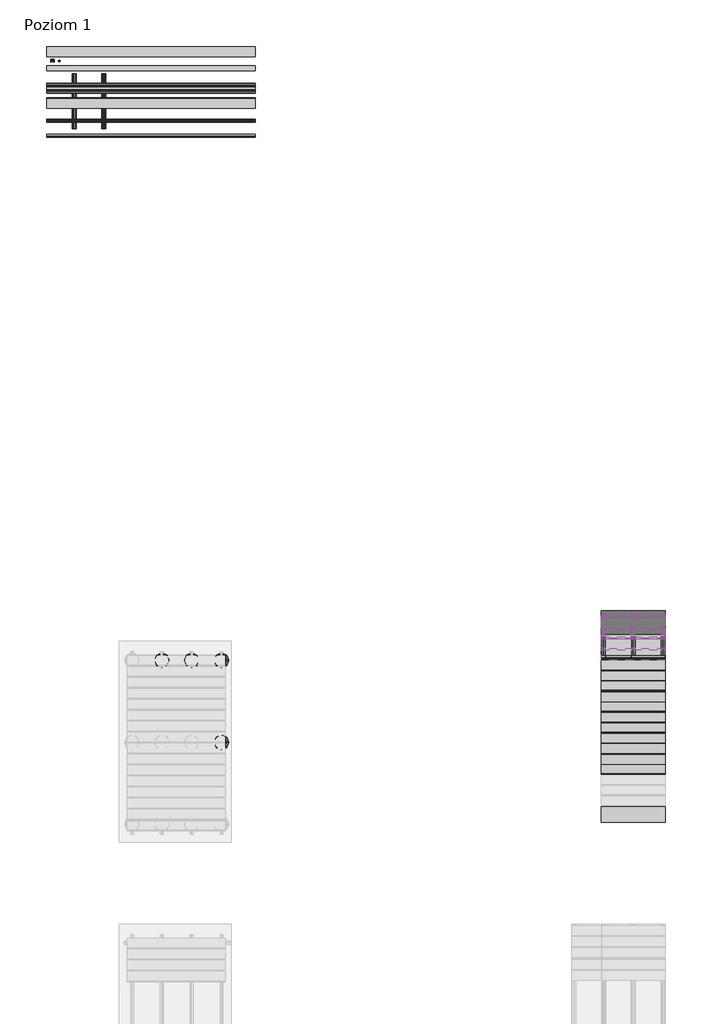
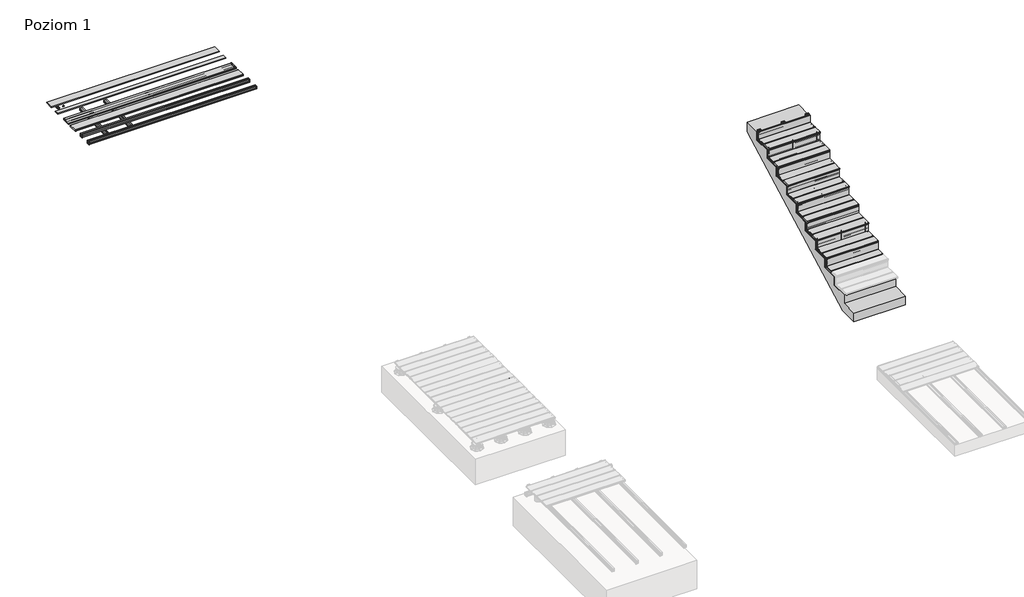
# One storey, part 3 of 3: 126 proxies.
"""IFC4 building model written with IfcOpenShell, lengths in millimetres."""

from ifc_helpers import new_model, si_unit, origin, place, context, project, spatial, transform, mapped, element, save
from components import generic_models_ff447b25, generic_models_61bc065f, generic_models_3772b401, generic_models_0a6fc9aa, generic_models_f2eebd4b, generic_models_5d387387, generic_models_da7c4b98, generic_models_ad5caf77, generic_models_7d2dd9e2, generic_models_15976a7a, deska_ld14022_75c34203, deska_ld14022_deska_ld14022_c7e6d53c, deska_ld14022_deska_ld14022_10748b43, deska_ld14022s_deska_ld14022s_a65ad6c5, deska_ld14022s_deska_ld14022s_40a74b43

model = new_model("IFC4")

# Units and contexts
model_context = context("Model", 3, world=origin())
ifc_project = project(units=[si_unit("LENGTHUNIT", "METRE", prefix="MILLI")], contexts=[model_context])

# Site, building, storey
site = spatial("IfcSite", under=ifc_project)
building = spatial("IfcBuilding", under=site)
storey = spatial("IfcBuildingStorey", under=building, Name="Poziom 1", Elevation=0.0)

# Proxies
placement = place(None, origin())
generic_models_shape = generic_models_ff447b25(model_context)
element("IfcBuildingElementProxy", 1, Name="Legar systemowy LD5030 : Legar systemowy LD5030", ObjectType="Legar systemowy LD5030 : Legar systemowy LD5030", at=placement, inside=storey, context=model_context, shape_type="MappedRepresentation", body=[
    mapped(generic_models_shape, transform((-964.1844126, 640.5405932, -30.0), x_axis=(0.0, 1.0, 0.0), y_axis=(-1.0, 0.0, 0.0), z_axis=(0.0, 0.0, 1.0))),
])
element("IfcBuildingElementProxy", 2, Name="Legar systemowy LD5030 : Legar systemowy LD5030", ObjectType="Legar systemowy LD5030 : Legar systemowy LD5030", at=placement, inside=storey, context=model_context, shape_type="MappedRepresentation", body=[
    mapped(generic_models_shape, transform((-564.1844126, 640.5405932, -30.0), x_axis=(0.0, 1.0, 0.0), y_axis=(-1.0, 0.0, 0.0), z_axis=(0.0, 0.0, 1.0))),
])
generic_models_2_shape = generic_models_61bc065f(model_context)
element("IfcBuildingElementProxy", 3, Name="Listwa LD7010 : Listwa LD7010", ObjectType="Listwa LD7010 : Listwa LD7010", at=placement, inside=storey, context=model_context, shape_type="MappedRepresentation", body=[
    mapped(generic_models_2_shape, transform((-1307.5800693, 1486.1988062, 0.0), x_axis=(1.0, 0.0, 0.0), y_axis=(0.0, 1.0, 0.0), z_axis=(0.0, 0.0, 1.0))),
])
generic_models_3_shape = generic_models_3772b401(model_context)
element("IfcBuildingElementProxy", 4, Name="Listwa LD14010 : Listwa LD14010", ObjectType="Listwa LD14010 : Listwa LD14010", at=placement, inside=storey, context=model_context, shape_type="MappedRepresentation", body=[
    mapped(generic_models_3_shape, transform((-1307.5800693, 1743.7909816, 0.0), x_axis=(1.0, 0.0, 0.0), y_axis=(0.0, 1.0, 0.0), z_axis=(0.0, 0.0, 1.0))),
])
generic_models_4_shape = generic_models_0a6fc9aa(model_context)
element("IfcBuildingElementProxy", 5, Name="Legar LD5039ALU : Legar LD5039ALU", ObjectType="Legar LD5039ALU : Legar LD5039ALU", at=placement, inside=storey, context=model_context, shape_type="MappedRepresentation", body=[
    mapped(generic_models_4_shape, transform((-1307.5800693, 565.2354164, 0.0), x_axis=(1.0, 0.0, 0.0), y_axis=(0.0, 1.0, 0.0), z_axis=(0.0, 0.0, 1.0))),
])
element("IfcBuildingElementProxy", 6, Name="Legar LD5039ALU : Legar LD5039ALU", ObjectType="Legar LD5039ALU : Legar LD5039ALU", at=placement, inside=storey, context=model_context, shape_type="MappedRepresentation", body=[
    mapped(generic_models_4_shape, transform((-1307.5800693, 767.6183154, 0.0), x_axis=(1.0, 0.0, 0.0), y_axis=(0.0, 1.0, 0.0), z_axis=(0.0, 0.0, 1.0))),
])
generic_models_5_shape = generic_models_f2eebd4b(model_context)
element("IfcBuildingElementProxy", 7, Name="Klips montażowy : Klips montażowy", ObjectType="Klips montażowy : Klips montażowy", at=placement, inside=storey, context=model_context, shape_type="MappedRepresentation", body=[
    mapped(generic_models_5_shape, transform((-1229.0924854, 1552.200837, 0.0), x_axis=(1.0, 0.0, 0.0), y_axis=(0.0, 1.0, 0.0), z_axis=(0.0, 0.0, 1.0))),
])
element("IfcBuildingElementProxy", 8, Name="Klips montażowy : Klips montażowy", ObjectType="Klips montażowy : Klips montażowy", at=placement, inside=storey, context=model_context, shape_type="MappedRepresentation", body=[
    mapped(generic_models_5_shape, transform((1040.3000551, -6569.0163547, -19.9602499), x_axis=(1.0, 0.0, 0.0), y_axis=(0.0, 1.0, 0.0), z_axis=(0.0, 0.0, 1.0))),
])
element("IfcBuildingElementProxy", 9, Name="Klips montażowy : Klips montażowy", ObjectType="Klips montażowy : Klips montażowy", at=placement, inside=storey, context=model_context, shape_type="MappedRepresentation", body=[
    mapped(generic_models_5_shape, transform((1040.3000551, -6716.8311952, -19.9602499), x_axis=(1.0, 0.0, 0.0), y_axis=(0.0, 1.0, 0.0), z_axis=(0.0, 0.0, 1.0))),
])
element("IfcBuildingElementProxy", 10, Name="Klips montażowy : Klips montażowy", ObjectType="Klips montażowy : Klips montażowy", at=placement, inside=storey, context=model_context, shape_type="MappedRepresentation", body=[
    mapped(generic_models_5_shape, transform((1040.3000551, -6864.6460356, -19.9602499), x_axis=(1.0, 0.0, 0.0), y_axis=(0.0, 1.0, 0.0), z_axis=(0.0, 0.0, 1.0))),
])
element("IfcBuildingElementProxy", 11, Name="Klips montażowy : Klips montażowy", ObjectType="Klips montażowy : Klips montażowy", at=placement, inside=storey, context=model_context, shape_type="MappedRepresentation", body=[
    mapped(generic_models_5_shape, transform((1040.3000551, -7012.460876, -19.9602499), x_axis=(1.0, 0.0, 0.0), y_axis=(0.0, 1.0, 0.0), z_axis=(0.0, 0.0, 1.0))),
])
element("IfcBuildingElementProxy", 12, Name="Klips montażowy : Klips montażowy", ObjectType="Klips montażowy : Klips montażowy", at=placement, inside=storey, context=model_context, shape_type="MappedRepresentation", body=[
    mapped(generic_models_5_shape, transform((1040.3000551, -7160.2757164, -19.9602499), x_axis=(1.0, 0.0, 0.0), y_axis=(0.0, 1.0, 0.0), z_axis=(0.0, 0.0, 1.0))),
])
element("IfcBuildingElementProxy", 13, Name="Klips montażowy : Klips montażowy", ObjectType="Klips montażowy : Klips montażowy", at=placement, inside=storey, context=model_context, shape_type="MappedRepresentation", body=[
    mapped(generic_models_5_shape, transform((1040.3000551, -7308.0905568, -19.9602499), x_axis=(1.0, 0.0, 0.0), y_axis=(0.0, 1.0, 0.0), z_axis=(0.0, 0.0, 1.0))),
])
element("IfcBuildingElementProxy", 14, Name="Klips montażowy : Klips montażowy", ObjectType="Klips montażowy : Klips montażowy", at=placement, inside=storey, context=model_context, shape_type="MappedRepresentation", body=[
    mapped(generic_models_5_shape, transform((1040.3000551, -7455.9053972, -19.9602499), x_axis=(1.0, 0.0, 0.0), y_axis=(0.0, 1.0, 0.0), z_axis=(0.0, 0.0, 1.0))),
])
element("IfcBuildingElementProxy", 15, Name="Klips montażowy : Klips montażowy", ObjectType="Klips montażowy : Klips montażowy", at=placement, inside=storey, context=model_context, shape_type="MappedRepresentation", body=[
    mapped(generic_models_5_shape, transform((1040.3000551, -7603.7202376, -19.9602499), x_axis=(1.0, 0.0, 0.0), y_axis=(0.0, 1.0, 0.0), z_axis=(0.0, 0.0, 1.0))),
])
element("IfcBuildingElementProxy", 16, Name="Klips montażowy : Klips montażowy", ObjectType="Klips montażowy : Klips montażowy", at=placement, inside=storey, context=model_context, shape_type="MappedRepresentation", body=[
    mapped(generic_models_5_shape, transform((1040.3000551, -7751.535078, -19.9602499), x_axis=(1.0, 0.0, 0.0), y_axis=(0.0, 1.0, 0.0), z_axis=(0.0, 0.0, 1.0))),
])
element("IfcBuildingElementProxy", 17, Name="Klips montażowy : Klips montażowy", ObjectType="Klips montażowy : Klips montażowy", at=placement, inside=storey, context=model_context, shape_type="MappedRepresentation", body=[
    mapped(generic_models_5_shape, transform((1040.3000551, -7899.3499184, -19.9602499), x_axis=(1.0, 0.0, 0.0), y_axis=(0.0, 1.0, 0.0), z_axis=(0.0, 0.0, 1.0))),
])
element("IfcBuildingElementProxy", 18, Name="Klips montażowy : Klips montażowy", ObjectType="Klips montażowy : Klips montażowy", at=placement, inside=storey, context=model_context, shape_type="MappedRepresentation", body=[
    mapped(generic_models_5_shape, transform((640.3000551, -6569.0163547, -19.9602499), x_axis=(1.0, 0.0, 0.0), y_axis=(0.0, 1.0, 0.0), z_axis=(0.0, 0.0, 1.0))),
])
element("IfcBuildingElementProxy", 19, Name="Klips montażowy : Klips montażowy", ObjectType="Klips montażowy : Klips montażowy", at=placement, inside=storey, context=model_context, shape_type="MappedRepresentation", body=[
    mapped(generic_models_5_shape, transform((640.3000551, -6716.8311952, -19.9602499), x_axis=(1.0, 0.0, 0.0), y_axis=(0.0, 1.0, 0.0), z_axis=(0.0, 0.0, 1.0))),
])
element("IfcBuildingElementProxy", 20, Name="Klips montażowy : Klips montażowy", ObjectType="Klips montażowy : Klips montażowy", at=placement, inside=storey, context=model_context, shape_type="MappedRepresentation", body=[
    mapped(generic_models_5_shape, transform((640.3000551, -6864.6460356, -19.9602499), x_axis=(1.0, 0.0, 0.0), y_axis=(0.0, 1.0, 0.0), z_axis=(0.0, 0.0, 1.0))),
])
element("IfcBuildingElementProxy", 21, Name="Klips montażowy : Klips montażowy", ObjectType="Klips montażowy : Klips montażowy", at=placement, inside=storey, context=model_context, shape_type="MappedRepresentation", body=[
    mapped(generic_models_5_shape, transform((240.2735017, -6569.0163547, -19.9602499), x_axis=(1.0, 0.0, 0.0), y_axis=(0.0, 1.0, 0.0), z_axis=(0.0, 0.0, 1.0))),
])
element("IfcBuildingElementProxy", 22, Name="Klips montażowy : Klips montażowy", ObjectType="Klips montażowy : Klips montażowy", at=placement, inside=storey, context=model_context, shape_type="MappedRepresentation", body=[
    mapped(generic_models_5_shape, transform((240.2735017, -6716.8311952, -19.9602499), x_axis=(1.0, 0.0, 0.0), y_axis=(0.0, 1.0, 0.0), z_axis=(0.0, 0.0, 1.0))),
])
element("IfcBuildingElementProxy", 23, Name="Klips montażowy : Klips montażowy", ObjectType="Klips montażowy : Klips montażowy", at=placement, inside=storey, context=model_context, shape_type="MappedRepresentation", body=[
    mapped(generic_models_5_shape, transform((240.2735017, -6864.6460356, -19.9602499), x_axis=(1.0, 0.0, 0.0), y_axis=(0.0, 1.0, 0.0), z_axis=(0.0, 0.0, 1.0))),
])
element("IfcBuildingElementProxy", 24, Name="Klips montażowy : Klips montażowy", ObjectType="Klips montażowy : Klips montażowy", at=placement, inside=storey, context=model_context, shape_type="MappedRepresentation", body=[
    mapped(generic_models_5_shape, transform((240.2735017, -7160.2757164, -19.9602499), x_axis=(1.0, 0.0, 0.0), y_axis=(0.0, 1.0, 0.0), z_axis=(0.0, 0.0, 1.0))),
])
element("IfcBuildingElementProxy", 25, Name="Klips montażowy : Klips montażowy", ObjectType="Klips montażowy : Klips montażowy", at=placement, inside=storey, context=model_context, shape_type="MappedRepresentation", body=[
    mapped(generic_models_5_shape, transform((240.2735017, -7308.0905568, -19.9602499), x_axis=(1.0, 0.0, 0.0), y_axis=(0.0, 1.0, 0.0), z_axis=(0.0, 0.0, 1.0))),
])
element("IfcBuildingElementProxy", 26, Name="Klips montażowy : Klips montażowy", ObjectType="Klips montażowy : Klips montażowy", at=placement, inside=storey, context=model_context, shape_type="MappedRepresentation", body=[
    mapped(generic_models_5_shape, transform((240.2735017, -7455.9053972, -19.9602499), x_axis=(1.0, 0.0, 0.0), y_axis=(0.0, 1.0, 0.0), z_axis=(0.0, 0.0, 1.0))),
])
element("IfcBuildingElementProxy", 27, Name="Klips montażowy : Klips montażowy", ObjectType="Klips montażowy : Klips montażowy", at=placement, inside=storey, context=model_context, shape_type="MappedRepresentation", body=[
    mapped(generic_models_5_shape, transform((240.2735017, -7603.7202376, -19.9602499), x_axis=(1.0, 0.0, 0.0), y_axis=(0.0, 1.0, 0.0), z_axis=(0.0, 0.0, 1.0))),
])
element("IfcBuildingElementProxy", 28, Name="Klips montażowy : Klips montażowy", ObjectType="Klips montażowy : Klips montażowy", at=placement, inside=storey, context=model_context, shape_type="MappedRepresentation", body=[
    mapped(generic_models_5_shape, transform((240.2735017, -7751.535078, -19.9602499), x_axis=(1.0, 0.0, 0.0), y_axis=(0.0, 1.0, 0.0), z_axis=(0.0, 0.0, 1.0))),
])
element("IfcBuildingElementProxy", 29, Name="Klips montażowy : Klips montażowy", ObjectType="Klips montażowy : Klips montażowy", at=placement, inside=storey, context=model_context, shape_type="MappedRepresentation", body=[
    mapped(generic_models_5_shape, transform((240.2735017, -7899.3499184, -19.9602499), x_axis=(1.0, 0.0, 0.0), y_axis=(0.0, 1.0, 0.0), z_axis=(0.0, 0.0, 1.0))),
])
element("IfcBuildingElementProxy", 30, Name="Klips montażowy : Klips montażowy", ObjectType="Klips montażowy : Klips montażowy", at=placement, inside=storey, context=model_context, shape_type="MappedRepresentation", body=[
    mapped(generic_models_5_shape, transform((6968.9741398, -6066.9888182, 1380.0), x_axis=(1.0, 0.0, 0.0), y_axis=(0.0, 1.0, 0.0), z_axis=(0.0, 0.0, 1.0))),
])
element("IfcBuildingElementProxy", 31, Name="Klips montażowy : Klips montażowy", ObjectType="Klips montażowy : Klips montażowy", at=placement, inside=storey, context=model_context, shape_type="MappedRepresentation", body=[
    mapped(generic_models_5_shape, transform((6968.9741398, -6346.9888182, 1230.0), x_axis=(1.0, 0.0, 0.0), y_axis=(0.0, 1.0, 0.0), z_axis=(0.0, 0.0, 1.0))),
])
element("IfcBuildingElementProxy", 32, Name="Klips montażowy : Klips montażowy", ObjectType="Klips montażowy : Klips montażowy", at=placement, inside=storey, context=model_context, shape_type="MappedRepresentation", body=[
    mapped(generic_models_5_shape, transform((6968.9741398, -6626.9888182, 1080.0), x_axis=(1.0, 0.0, 0.0), y_axis=(0.0, 1.0, 0.0), z_axis=(0.0, 0.0, 1.0))),
])
element("IfcBuildingElementProxy", 33, Name="Klips montażowy : Klips montażowy", ObjectType="Klips montażowy : Klips montażowy", at=placement, inside=storey, context=model_context, shape_type="MappedRepresentation", body=[
    mapped(generic_models_5_shape, transform((6968.9741398, -6906.9888182, 930.0), x_axis=(1.0, 0.0, 0.0), y_axis=(0.0, 1.0, 0.0), z_axis=(0.0, 0.0, 1.0))),
])
element("IfcBuildingElementProxy", 34, Name="Klips montażowy : Klips montażowy", ObjectType="Klips montażowy : Klips montażowy", at=placement, inside=storey, context=model_context, shape_type="MappedRepresentation", body=[
    mapped(generic_models_5_shape, transform((6968.9741398, -7186.9888182, 780.0), x_axis=(1.0, 0.0, 0.0), y_axis=(0.0, 1.0, 0.0), z_axis=(0.0, 0.0, 1.0))),
])
element("IfcBuildingElementProxy", 35, Name="Klips montażowy : Klips montażowy", ObjectType="Klips montażowy : Klips montażowy", at=placement, inside=storey, context=model_context, shape_type="MappedRepresentation", body=[
    mapped(generic_models_5_shape, transform((6968.9741398, -7466.9888182, 630.0), x_axis=(1.0, 0.0, 0.0), y_axis=(0.0, 1.0, 0.0), z_axis=(0.0, 0.0, 1.0))),
])
element("IfcBuildingElementProxy", 36, Name="Klips montażowy : Klips montażowy", ObjectType="Klips montażowy : Klips montażowy", at=placement, inside=storey, context=model_context, shape_type="MappedRepresentation", body=[
    mapped(generic_models_5_shape, transform((6968.9741398, -7746.9888182, 480.0), x_axis=(1.0, 0.0, 0.0), y_axis=(0.0, 1.0, 0.0), z_axis=(0.0, 0.0, 1.0))),
])
element("IfcBuildingElementProxy", 37, Name="Klips montażowy : Klips montażowy", ObjectType="Klips montażowy : Klips montażowy", at=placement, inside=storey, context=model_context, shape_type="MappedRepresentation", body=[
    mapped(generic_models_5_shape, transform((6568.9741398, -6066.9888182, 1380.0), x_axis=(1.0, 0.0, 0.0), y_axis=(0.0, 1.0, 0.0), z_axis=(0.0, 0.0, 1.0))),
])
element("IfcBuildingElementProxy", 38, Name="Klips montażowy : Klips montażowy", ObjectType="Klips montażowy : Klips montażowy", at=placement, inside=storey, context=model_context, shape_type="MappedRepresentation", body=[
    mapped(generic_models_5_shape, transform((6568.9741398, -6346.9888182, 1230.0), x_axis=(1.0, 0.0, 0.0), y_axis=(0.0, 1.0, 0.0), z_axis=(0.0, 0.0, 1.0))),
])
element("IfcBuildingElementProxy", 39, Name="Klips montażowy : Klips montażowy", ObjectType="Klips montażowy : Klips montażowy", at=placement, inside=storey, context=model_context, shape_type="MappedRepresentation", body=[
    mapped(generic_models_5_shape, transform((6568.9741398, -6626.9888182, 1080.0), x_axis=(1.0, 0.0, 0.0), y_axis=(0.0, 1.0, 0.0), z_axis=(0.0, 0.0, 1.0))),
])
element("IfcBuildingElementProxy", 40, Name="Klips montażowy : Klips montażowy", ObjectType="Klips montażowy : Klips montażowy", at=placement, inside=storey, context=model_context, shape_type="MappedRepresentation", body=[
    mapped(generic_models_5_shape, transform((6568.9741398, -6906.9888182, 930.0), x_axis=(1.0, 0.0, 0.0), y_axis=(0.0, 1.0, 0.0), z_axis=(0.0, 0.0, 1.0))),
])
element("IfcBuildingElementProxy", 41, Name="Klips montażowy : Klips montażowy", ObjectType="Klips montażowy : Klips montażowy", at=placement, inside=storey, context=model_context, shape_type="MappedRepresentation", body=[
    mapped(generic_models_5_shape, transform((6568.9741398, -7186.9888182, 780.0), x_axis=(1.0, 0.0, 0.0), y_axis=(0.0, 1.0, 0.0), z_axis=(0.0, 0.0, 1.0))),
])
element("IfcBuildingElementProxy", 42, Name="Klips montażowy : Klips montażowy", ObjectType="Klips montażowy : Klips montażowy", at=placement, inside=storey, context=model_context, shape_type="MappedRepresentation", body=[
    mapped(generic_models_5_shape, transform((6568.9741398, -7466.9888182, 630.0), x_axis=(1.0, 0.0, 0.0), y_axis=(0.0, 1.0, 0.0), z_axis=(0.0, 0.0, 1.0))),
])
element("IfcBuildingElementProxy", 43, Name="Klips montażowy : Klips montażowy", ObjectType="Klips montażowy : Klips montażowy", at=placement, inside=storey, context=model_context, shape_type="MappedRepresentation", body=[
    mapped(generic_models_5_shape, transform((6568.9741398, -7746.9888182, 480.0), x_axis=(1.0, 0.0, 0.0), y_axis=(0.0, 1.0, 0.0), z_axis=(0.0, 0.0, 1.0))),
])
element("IfcBuildingElementProxy", 44, Name="Klips montażowy : Klips montażowy", ObjectType="Klips montażowy : Klips montażowy", at=placement, inside=storey, context=model_context, shape_type="MappedRepresentation", body=[
    mapped(generic_models_5_shape, transform((6168.9741398, -6066.9888182, 1380.0), x_axis=(1.0, 0.0, 0.0), y_axis=(0.0, 1.0, 0.0), z_axis=(0.0, 0.0, 1.0))),
])
element("IfcBuildingElementProxy", 45, Name="Klips montażowy : Klips montażowy", ObjectType="Klips montażowy : Klips montażowy", at=placement, inside=storey, context=model_context, shape_type="MappedRepresentation", body=[
    mapped(generic_models_5_shape, transform((6168.9741398, -6346.9888182, 1230.0), x_axis=(1.0, 0.0, 0.0), y_axis=(0.0, 1.0, 0.0), z_axis=(0.0, 0.0, 1.0))),
])
element("IfcBuildingElementProxy", 46, Name="Klips montażowy : Klips montażowy", ObjectType="Klips montażowy : Klips montażowy", at=placement, inside=storey, context=model_context, shape_type="MappedRepresentation", body=[
    mapped(generic_models_5_shape, transform((6168.9741398, -6626.9888182, 1080.0), x_axis=(1.0, 0.0, 0.0), y_axis=(0.0, 1.0, 0.0), z_axis=(0.0, 0.0, 1.0))),
])
element("IfcBuildingElementProxy", 47, Name="Klips montażowy : Klips montażowy", ObjectType="Klips montażowy : Klips montażowy", at=placement, inside=storey, context=model_context, shape_type="MappedRepresentation", body=[
    mapped(generic_models_5_shape, transform((6168.9741398, -6906.9888182, 930.0), x_axis=(1.0, 0.0, 0.0), y_axis=(0.0, 1.0, 0.0), z_axis=(0.0, 0.0, 1.0))),
])
element("IfcBuildingElementProxy", 48, Name="Klips montażowy : Klips montażowy", ObjectType="Klips montażowy : Klips montażowy", at=placement, inside=storey, context=model_context, shape_type="MappedRepresentation", body=[
    mapped(generic_models_5_shape, transform((6168.9741398, -7186.9888182, 780.0), x_axis=(1.0, 0.0, 0.0), y_axis=(0.0, 1.0, 0.0), z_axis=(0.0, 0.0, 1.0))),
])
element("IfcBuildingElementProxy", 49, Name="Klips montażowy : Klips montażowy", ObjectType="Klips montażowy : Klips montażowy", at=placement, inside=storey, context=model_context, shape_type="MappedRepresentation", body=[
    mapped(generic_models_5_shape, transform((6168.9741398, -7466.9888182, 630.0), x_axis=(1.0, 0.0, 0.0), y_axis=(0.0, 1.0, 0.0), z_axis=(0.0, 0.0, 1.0))),
])
element("IfcBuildingElementProxy", 50, Name="Klips montażowy : Klips montażowy", ObjectType="Klips montażowy : Klips montażowy", at=placement, inside=storey, context=model_context, shape_type="MappedRepresentation", body=[
    mapped(generic_models_5_shape, transform((6168.9741398, -7746.9888182, 480.0), x_axis=(1.0, 0.0, 0.0), y_axis=(0.0, 1.0, 0.0), z_axis=(0.0, 0.0, 1.0))),
])
generic_models_6_shape = generic_models_5d387387(model_context)
element("IfcBuildingElementProxy", 51, Name="Klips blokujący : Klips blokujący", ObjectType="Klips blokujący : Klips blokujący", at=placement, inside=storey, context=model_context, shape_type="MappedRepresentation", body=[
    mapped(generic_models_6_shape, transform((-1145.881616, 1548.447155, 0.0), x_axis=(1.0, 0.0, 0.0), y_axis=(0.0, 1.0, 0.0), z_axis=(0.0, 0.0, 1.0))),
])
generic_models_7_shape = generic_models_da7c4b98(model_context)
element("IfcBuildingElementProxy", 52, Name="Modele ogólne 1 : Modele ogólne 1", ObjectType="Modele ogólne 1 : Modele ogólne 1", at=placement, inside=storey, context=model_context, shape_type="MappedRepresentation", body=[
    mapped(generic_models_7_shape, transform((0.0, 0.0, 0.0), x_axis=(1.0, 0.0, 0.0), y_axis=(0.0, 1.0, 0.0), z_axis=(0.0, 0.0, 1.0))),
])
generic_models_8_shape = generic_models_ad5caf77(model_context)
element("IfcBuildingElementProxy", 53, Name="Legar systemowy LD5030 : Legar systemowy LD5030", ObjectType="Legar systemowy LD5030 : Legar systemowy LD5030", at=placement, inside=storey, context=model_context, shape_type="MappedRepresentation", body=[
    mapped(generic_models_8_shape, transform((6541.7939993, -6149.2028197, 1350.0), x_axis=(0.0, 1.0, 0.0), y_axis=(-1.0, 0.0, 0.0), z_axis=(0.0, 0.0, 1.0))),
])
element("IfcBuildingElementProxy", 54, Name="Legar systemowy LD5030 : Legar systemowy LD5030", ObjectType="Legar systemowy LD5030 : Legar systemowy LD5030", at=placement, inside=storey, context=model_context, shape_type="MappedRepresentation", body=[
    mapped(generic_models_8_shape, transform((6541.7939993, -6429.2028197, 1200.0), x_axis=(0.0, 1.0, 0.0), y_axis=(-1.0, 0.0, 0.0), z_axis=(0.0, 0.0, 1.0))),
])
element("IfcBuildingElementProxy", 55, Name="Legar systemowy LD5030 : Legar systemowy LD5030", ObjectType="Legar systemowy LD5030 : Legar systemowy LD5030", at=placement, inside=storey, context=model_context, shape_type="MappedRepresentation", body=[
    mapped(generic_models_8_shape, transform((6541.7939993, -6709.2028197, 1050.0), x_axis=(0.0, 1.0, 0.0), y_axis=(-1.0, 0.0, 0.0), z_axis=(0.0, 0.0, 1.0))),
])
element("IfcBuildingElementProxy", 56, Name="Legar systemowy LD5030 : Legar systemowy LD5030", ObjectType="Legar systemowy LD5030 : Legar systemowy LD5030", at=placement, inside=storey, context=model_context, shape_type="MappedRepresentation", body=[
    mapped(generic_models_8_shape, transform((6541.7939993, -6989.2028197, 900.0), x_axis=(0.0, 1.0, 0.0), y_axis=(-1.0, 0.0, 0.0), z_axis=(0.0, 0.0, 1.0))),
])
element("IfcBuildingElementProxy", 57, Name="Legar systemowy LD5030 : Legar systemowy LD5030", ObjectType="Legar systemowy LD5030 : Legar systemowy LD5030", at=placement, inside=storey, context=model_context, shape_type="MappedRepresentation", body=[
    mapped(generic_models_8_shape, transform((6541.7939993, -7269.2028197, 750.0), x_axis=(0.0, 1.0, 0.0), y_axis=(-1.0, 0.0, 0.0), z_axis=(0.0, 0.0, 1.0))),
])
element("IfcBuildingElementProxy", 58, Name="Legar systemowy LD5030 : Legar systemowy LD5030", ObjectType="Legar systemowy LD5030 : Legar systemowy LD5030", at=placement, inside=storey, context=model_context, shape_type="MappedRepresentation", body=[
    mapped(generic_models_8_shape, transform((6541.7939993, -7549.2028197, 600.0), x_axis=(0.0, 1.0, 0.0), y_axis=(-1.0, 0.0, 0.0), z_axis=(0.0, 0.0, 1.0))),
])
element("IfcBuildingElementProxy", 59, Name="Legar systemowy LD5030 : Legar systemowy LD5030", ObjectType="Legar systemowy LD5030 : Legar systemowy LD5030", at=placement, inside=storey, context=model_context, shape_type="MappedRepresentation", body=[
    mapped(generic_models_8_shape, transform((6541.7939993, -7829.2028197, 450.0), x_axis=(0.0, 1.0, 0.0), y_axis=(-1.0, 0.0, 0.0), z_axis=(0.0, 0.0, 1.0))),
])
element("IfcBuildingElementProxy", 60, Name="Legar systemowy LD5030 : Legar systemowy LD5030", ObjectType="Legar systemowy LD5030 : Legar systemowy LD5030", at=placement, inside=storey, context=model_context, shape_type="MappedRepresentation", body=[
    mapped(generic_models_8_shape, transform((6941.7939993, -6149.2028197, 1350.0), x_axis=(0.0, 1.0, 0.0), y_axis=(-1.0, 0.0, 0.0), z_axis=(0.0, 0.0, 1.0))),
])
element("IfcBuildingElementProxy", 61, Name="Legar systemowy LD5030 : Legar systemowy LD5030", ObjectType="Legar systemowy LD5030 : Legar systemowy LD5030", at=placement, inside=storey, context=model_context, shape_type="MappedRepresentation", body=[
    mapped(generic_models_8_shape, transform((6941.7939993, -6429.2028197, 1200.0), x_axis=(0.0, 1.0, 0.0), y_axis=(-1.0, 0.0, 0.0), z_axis=(0.0, 0.0, 1.0))),
])
element("IfcBuildingElementProxy", 62, Name="Legar systemowy LD5030 : Legar systemowy LD5030", ObjectType="Legar systemowy LD5030 : Legar systemowy LD5030", at=placement, inside=storey, context=model_context, shape_type="MappedRepresentation", body=[
    mapped(generic_models_8_shape, transform((6941.7939993, -6709.2028197, 1050.0), x_axis=(0.0, 1.0, 0.0), y_axis=(-1.0, 0.0, 0.0), z_axis=(0.0, 0.0, 1.0))),
])
element("IfcBuildingElementProxy", 63, Name="Legar systemowy LD5030 : Legar systemowy LD5030", ObjectType="Legar systemowy LD5030 : Legar systemowy LD5030", at=placement, inside=storey, context=model_context, shape_type="MappedRepresentation", body=[
    mapped(generic_models_8_shape, transform((6941.7939993, -6989.2028197, 900.0), x_axis=(0.0, 1.0, 0.0), y_axis=(-1.0, 0.0, 0.0), z_axis=(0.0, 0.0, 1.0))),
])
element("IfcBuildingElementProxy", 64, Name="Legar systemowy LD5030 : Legar systemowy LD5030", ObjectType="Legar systemowy LD5030 : Legar systemowy LD5030", at=placement, inside=storey, context=model_context, shape_type="MappedRepresentation", body=[
    mapped(generic_models_8_shape, transform((6941.7939993, -7269.2028197, 750.0), x_axis=(0.0, 1.0, 0.0), y_axis=(-1.0, 0.0, 0.0), z_axis=(0.0, 0.0, 1.0))),
])
element("IfcBuildingElementProxy", 65, Name="Legar systemowy LD5030 : Legar systemowy LD5030", ObjectType="Legar systemowy LD5030 : Legar systemowy LD5030", at=placement, inside=storey, context=model_context, shape_type="MappedRepresentation", body=[
    mapped(generic_models_8_shape, transform((6941.7939993, -7549.2028197, 600.0), x_axis=(0.0, 1.0, 0.0), y_axis=(-1.0, 0.0, 0.0), z_axis=(0.0, 0.0, 1.0))),
])
element("IfcBuildingElementProxy", 66, Name="Legar systemowy LD5030 : Legar systemowy LD5030", ObjectType="Legar systemowy LD5030 : Legar systemowy LD5030", at=placement, inside=storey, context=model_context, shape_type="MappedRepresentation", body=[
    mapped(generic_models_8_shape, transform((6941.7939993, -7829.2028197, 450.0), x_axis=(0.0, 1.0, 0.0), y_axis=(-1.0, 0.0, 0.0), z_axis=(0.0, 0.0, 1.0))),
])
element("IfcBuildingElementProxy", 67, Name="Legar systemowy LD5030 : Legar systemowy LD5030", ObjectType="Legar systemowy LD5030 : Legar systemowy LD5030", at=placement, inside=storey, context=model_context, shape_type="MappedRepresentation", body=[
    mapped(generic_models_8_shape, transform((6141.7939993, -6149.2028197, 1350.0), x_axis=(0.0, 1.0, 0.0), y_axis=(-1.0, 0.0, 0.0), z_axis=(0.0, 0.0, 1.0))),
])
element("IfcBuildingElementProxy", 68, Name="Legar systemowy LD5030 : Legar systemowy LD5030", ObjectType="Legar systemowy LD5030 : Legar systemowy LD5030", at=placement, inside=storey, context=model_context, shape_type="MappedRepresentation", body=[
    mapped(generic_models_8_shape, transform((6141.7939993, -6429.2028197, 1200.0), x_axis=(0.0, 1.0, 0.0), y_axis=(-1.0, 0.0, 0.0), z_axis=(0.0, 0.0, 1.0))),
])
element("IfcBuildingElementProxy", 69, Name="Legar systemowy LD5030 : Legar systemowy LD5030", ObjectType="Legar systemowy LD5030 : Legar systemowy LD5030", at=placement, inside=storey, context=model_context, shape_type="MappedRepresentation", body=[
    mapped(generic_models_8_shape, transform((6141.7939993, -6709.2028197, 1050.0), x_axis=(0.0, 1.0, 0.0), y_axis=(-1.0, 0.0, 0.0), z_axis=(0.0, 0.0, 1.0))),
])
element("IfcBuildingElementProxy", 70, Name="Legar systemowy LD5030 : Legar systemowy LD5030", ObjectType="Legar systemowy LD5030 : Legar systemowy LD5030", at=placement, inside=storey, context=model_context, shape_type="MappedRepresentation", body=[
    mapped(generic_models_8_shape, transform((6141.7939993, -6989.2028197, 900.0), x_axis=(0.0, 1.0, 0.0), y_axis=(-1.0, 0.0, 0.0), z_axis=(0.0, 0.0, 1.0))),
])
element("IfcBuildingElementProxy", 71, Name="Legar systemowy LD5030 : Legar systemowy LD5030", ObjectType="Legar systemowy LD5030 : Legar systemowy LD5030", at=placement, inside=storey, context=model_context, shape_type="MappedRepresentation", body=[
    mapped(generic_models_8_shape, transform((6141.7939993, -7269.2028197, 750.0), x_axis=(0.0, 1.0, 0.0), y_axis=(-1.0, 0.0, 0.0), z_axis=(0.0, 0.0, 1.0))),
])
element("IfcBuildingElementProxy", 72, Name="Legar systemowy LD5030 : Legar systemowy LD5030", ObjectType="Legar systemowy LD5030 : Legar systemowy LD5030", at=placement, inside=storey, context=model_context, shape_type="MappedRepresentation", body=[
    mapped(generic_models_8_shape, transform((6141.7939993, -7549.2028197, 600.0), x_axis=(0.0, 1.0, 0.0), y_axis=(-1.0, 0.0, 0.0), z_axis=(0.0, 0.0, 1.0))),
])
element("IfcBuildingElementProxy", 73, Name="Legar systemowy LD5030 : Legar systemowy LD5030", ObjectType="Legar systemowy LD5030 : Legar systemowy LD5030", at=placement, inside=storey, context=model_context, shape_type="MappedRepresentation", body=[
    mapped(generic_models_8_shape, transform((6141.7939993, -7829.2028197, 450.0), x_axis=(0.0, 1.0, 0.0), y_axis=(-1.0, 0.0, 0.0), z_axis=(0.0, 0.0, 1.0))),
])
generic_models_9_shape = generic_models_7d2dd9e2(model_context)
element("IfcBuildingElementProxy", 74, Name="Legar systemowy LD5030_pion : Legar systemowy LD5030_pion", ObjectType="Legar systemowy LD5030_pion : Legar systemowy LD5030_pion", at=placement, inside=storey, context=model_context, shape_type="MappedRepresentation", body=[
    mapped(generic_models_9_shape, transform((6541.7939993, -5869.2028197, 1350.0), x_axis=(0.0, 1.0, 0.0), y_axis=(-1.0, 0.0, 0.0), z_axis=(0.0, 0.0, 1.0))),
])
element("IfcBuildingElementProxy", 75, Name="Legar systemowy LD5030_pion : Legar systemowy LD5030_pion", ObjectType="Legar systemowy LD5030_pion : Legar systemowy LD5030_pion", at=placement, inside=storey, context=model_context, shape_type="MappedRepresentation", body=[
    mapped(generic_models_9_shape, transform((6541.7939993, -6149.2028197, 1200.0), x_axis=(0.0, 1.0, 0.0), y_axis=(-1.0, 0.0, 0.0), z_axis=(0.0, 0.0, 1.0))),
])
element("IfcBuildingElementProxy", 76, Name="Legar systemowy LD5030_pion : Legar systemowy LD5030_pion", ObjectType="Legar systemowy LD5030_pion : Legar systemowy LD5030_pion", at=placement, inside=storey, context=model_context, shape_type="MappedRepresentation", body=[
    mapped(generic_models_9_shape, transform((6541.7939993, -6429.2028197, 1050.0), x_axis=(0.0, 1.0, 0.0), y_axis=(-1.0, 0.0, 0.0), z_axis=(0.0, 0.0, 1.0))),
])
element("IfcBuildingElementProxy", 77, Name="Legar systemowy LD5030_pion : Legar systemowy LD5030_pion", ObjectType="Legar systemowy LD5030_pion : Legar systemowy LD5030_pion", at=placement, inside=storey, context=model_context, shape_type="MappedRepresentation", body=[
    mapped(generic_models_9_shape, transform((6541.7939993, -6709.2028197, 900.0), x_axis=(0.0, 1.0, 0.0), y_axis=(-1.0, 0.0, 0.0), z_axis=(0.0, 0.0, 1.0))),
])
element("IfcBuildingElementProxy", 78, Name="Legar systemowy LD5030_pion : Legar systemowy LD5030_pion", ObjectType="Legar systemowy LD5030_pion : Legar systemowy LD5030_pion", at=placement, inside=storey, context=model_context, shape_type="MappedRepresentation", body=[
    mapped(generic_models_9_shape, transform((6541.7939993, -6989.2028197, 750.0), x_axis=(0.0, 1.0, 0.0), y_axis=(-1.0, 0.0, 0.0), z_axis=(0.0, 0.0, 1.0))),
])
element("IfcBuildingElementProxy", 79, Name="Legar systemowy LD5030_pion : Legar systemowy LD5030_pion", ObjectType="Legar systemowy LD5030_pion : Legar systemowy LD5030_pion", at=placement, inside=storey, context=model_context, shape_type="MappedRepresentation", body=[
    mapped(generic_models_9_shape, transform((6541.7939993, -7269.2028197, 600.0), x_axis=(0.0, 1.0, 0.0), y_axis=(-1.0, 0.0, 0.0), z_axis=(0.0, 0.0, 1.0))),
])
element("IfcBuildingElementProxy", 80, Name="Legar systemowy LD5030_pion : Legar systemowy LD5030_pion", ObjectType="Legar systemowy LD5030_pion : Legar systemowy LD5030_pion", at=placement, inside=storey, context=model_context, shape_type="MappedRepresentation", body=[
    mapped(generic_models_9_shape, transform((6541.7939993, -7549.2028197, 450.0), x_axis=(0.0, 1.0, 0.0), y_axis=(-1.0, 0.0, 0.0), z_axis=(0.0, 0.0, 1.0))),
])
element("IfcBuildingElementProxy", 81, Name="Legar systemowy LD5030_pion : Legar systemowy LD5030_pion", ObjectType="Legar systemowy LD5030_pion : Legar systemowy LD5030_pion", at=placement, inside=storey, context=model_context, shape_type="MappedRepresentation", body=[
    mapped(generic_models_9_shape, transform((6541.7939993, -7829.2028197, 300.0), x_axis=(0.0, 1.0, 0.0), y_axis=(-1.0, 0.0, 0.0), z_axis=(0.0, 0.0, 1.0))),
])
element("IfcBuildingElementProxy", 82, Name="Legar systemowy LD5030_pion : Legar systemowy LD5030_pion", ObjectType="Legar systemowy LD5030_pion : Legar systemowy LD5030_pion", at=placement, inside=storey, context=model_context, shape_type="MappedRepresentation", body=[
    mapped(generic_models_9_shape, transform((6941.7939993, -5869.2028197, 1350.0), x_axis=(0.0, 1.0, 0.0), y_axis=(-1.0, 0.0, 0.0), z_axis=(0.0, 0.0, 1.0))),
])
element("IfcBuildingElementProxy", 83, Name="Legar systemowy LD5030_pion : Legar systemowy LD5030_pion", ObjectType="Legar systemowy LD5030_pion : Legar systemowy LD5030_pion", at=placement, inside=storey, context=model_context, shape_type="MappedRepresentation", body=[
    mapped(generic_models_9_shape, transform((6941.7939993, -6149.2028197, 1200.0), x_axis=(0.0, 1.0, 0.0), y_axis=(-1.0, 0.0, 0.0), z_axis=(0.0, 0.0, 1.0))),
])
element("IfcBuildingElementProxy", 84, Name="Legar systemowy LD5030_pion : Legar systemowy LD5030_pion", ObjectType="Legar systemowy LD5030_pion : Legar systemowy LD5030_pion", at=placement, inside=storey, context=model_context, shape_type="MappedRepresentation", body=[
    mapped(generic_models_9_shape, transform((6941.7939993, -6429.2028197, 1050.0), x_axis=(0.0, 1.0, 0.0), y_axis=(-1.0, 0.0, 0.0), z_axis=(0.0, 0.0, 1.0))),
])
element("IfcBuildingElementProxy", 85, Name="Legar systemowy LD5030_pion : Legar systemowy LD5030_pion", ObjectType="Legar systemowy LD5030_pion : Legar systemowy LD5030_pion", at=placement, inside=storey, context=model_context, shape_type="MappedRepresentation", body=[
    mapped(generic_models_9_shape, transform((6941.7939993, -6709.2028197, 900.0), x_axis=(0.0, 1.0, 0.0), y_axis=(-1.0, 0.0, 0.0), z_axis=(0.0, 0.0, 1.0))),
])
element("IfcBuildingElementProxy", 86, Name="Legar systemowy LD5030_pion : Legar systemowy LD5030_pion", ObjectType="Legar systemowy LD5030_pion : Legar systemowy LD5030_pion", at=placement, inside=storey, context=model_context, shape_type="MappedRepresentation", body=[
    mapped(generic_models_9_shape, transform((6941.7939993, -6989.2028197, 750.0), x_axis=(0.0, 1.0, 0.0), y_axis=(-1.0, 0.0, 0.0), z_axis=(0.0, 0.0, 1.0))),
])
element("IfcBuildingElementProxy", 87, Name="Legar systemowy LD5030_pion : Legar systemowy LD5030_pion", ObjectType="Legar systemowy LD5030_pion : Legar systemowy LD5030_pion", at=placement, inside=storey, context=model_context, shape_type="MappedRepresentation", body=[
    mapped(generic_models_9_shape, transform((6941.7939993, -7269.2028197, 600.0), x_axis=(0.0, 1.0, 0.0), y_axis=(-1.0, 0.0, 0.0), z_axis=(0.0, 0.0, 1.0))),
])
element("IfcBuildingElementProxy", 88, Name="Legar systemowy LD5030_pion : Legar systemowy LD5030_pion", ObjectType="Legar systemowy LD5030_pion : Legar systemowy LD5030_pion", at=placement, inside=storey, context=model_context, shape_type="MappedRepresentation", body=[
    mapped(generic_models_9_shape, transform((6941.7939993, -7549.2028197, 450.0), x_axis=(0.0, 1.0, 0.0), y_axis=(-1.0, 0.0, 0.0), z_axis=(0.0, 0.0, 1.0))),
])
element("IfcBuildingElementProxy", 89, Name="Legar systemowy LD5030_pion : Legar systemowy LD5030_pion", ObjectType="Legar systemowy LD5030_pion : Legar systemowy LD5030_pion", at=placement, inside=storey, context=model_context, shape_type="MappedRepresentation", body=[
    mapped(generic_models_9_shape, transform((6941.7939993, -7829.2028197, 300.0), x_axis=(0.0, 1.0, 0.0), y_axis=(-1.0, 0.0, 0.0), z_axis=(0.0, 0.0, 1.0))),
])
element("IfcBuildingElementProxy", 90, Name="Legar systemowy LD5030_pion : Legar systemowy LD5030_pion", ObjectType="Legar systemowy LD5030_pion : Legar systemowy LD5030_pion", at=placement, inside=storey, context=model_context, shape_type="MappedRepresentation", body=[
    mapped(generic_models_9_shape, transform((6141.7939993, -5869.2028197, 1350.0), x_axis=(0.0, 1.0, 0.0), y_axis=(-1.0, 0.0, 0.0), z_axis=(0.0, 0.0, 1.0))),
])
element("IfcBuildingElementProxy", 91, Name="Legar systemowy LD5030_pion : Legar systemowy LD5030_pion", ObjectType="Legar systemowy LD5030_pion : Legar systemowy LD5030_pion", at=placement, inside=storey, context=model_context, shape_type="MappedRepresentation", body=[
    mapped(generic_models_9_shape, transform((6141.7939993, -6149.2028197, 1200.0), x_axis=(0.0, 1.0, 0.0), y_axis=(-1.0, 0.0, 0.0), z_axis=(0.0, 0.0, 1.0))),
])
element("IfcBuildingElementProxy", 92, Name="Legar systemowy LD5030_pion : Legar systemowy LD5030_pion", ObjectType="Legar systemowy LD5030_pion : Legar systemowy LD5030_pion", at=placement, inside=storey, context=model_context, shape_type="MappedRepresentation", body=[
    mapped(generic_models_9_shape, transform((6141.7939993, -6429.2028197, 1050.0), x_axis=(0.0, 1.0, 0.0), y_axis=(-1.0, 0.0, 0.0), z_axis=(0.0, 0.0, 1.0))),
])
element("IfcBuildingElementProxy", 93, Name="Legar systemowy LD5030_pion : Legar systemowy LD5030_pion", ObjectType="Legar systemowy LD5030_pion : Legar systemowy LD5030_pion", at=placement, inside=storey, context=model_context, shape_type="MappedRepresentation", body=[
    mapped(generic_models_9_shape, transform((6141.7939993, -6709.2028197, 900.0), x_axis=(0.0, 1.0, 0.0), y_axis=(-1.0, 0.0, 0.0), z_axis=(0.0, 0.0, 1.0))),
])
element("IfcBuildingElementProxy", 94, Name="Legar systemowy LD5030_pion : Legar systemowy LD5030_pion", ObjectType="Legar systemowy LD5030_pion : Legar systemowy LD5030_pion", at=placement, inside=storey, context=model_context, shape_type="MappedRepresentation", body=[
    mapped(generic_models_9_shape, transform((6141.7939993, -6989.2028197, 750.0), x_axis=(0.0, 1.0, 0.0), y_axis=(-1.0, 0.0, 0.0), z_axis=(0.0, 0.0, 1.0))),
])
element("IfcBuildingElementProxy", 95, Name="Legar systemowy LD5030_pion : Legar systemowy LD5030_pion", ObjectType="Legar systemowy LD5030_pion : Legar systemowy LD5030_pion", at=placement, inside=storey, context=model_context, shape_type="MappedRepresentation", body=[
    mapped(generic_models_9_shape, transform((6141.7939993, -7269.2028197, 600.0), x_axis=(0.0, 1.0, 0.0), y_axis=(-1.0, 0.0, 0.0), z_axis=(0.0, 0.0, 1.0))),
])
element("IfcBuildingElementProxy", 96, Name="Legar systemowy LD5030_pion : Legar systemowy LD5030_pion", ObjectType="Legar systemowy LD5030_pion : Legar systemowy LD5030_pion", at=placement, inside=storey, context=model_context, shape_type="MappedRepresentation", body=[
    mapped(generic_models_9_shape, transform((6141.7939993, -7549.2028197, 450.0), x_axis=(0.0, 1.0, 0.0), y_axis=(-1.0, 0.0, 0.0), z_axis=(0.0, 0.0, 1.0))),
])
element("IfcBuildingElementProxy", 97, Name="Legar systemowy LD5030_pion : Legar systemowy LD5030_pion", ObjectType="Legar systemowy LD5030_pion : Legar systemowy LD5030_pion", at=placement, inside=storey, context=model_context, shape_type="MappedRepresentation", body=[
    mapped(generic_models_9_shape, transform((6141.7939993, -7829.2028197, 300.0), x_axis=(0.0, 1.0, 0.0), y_axis=(-1.0, 0.0, 0.0), z_axis=(0.0, 0.0, 1.0))),
])
generic_models_10_shape = generic_models_15976a7a(model_context)
element("IfcBuildingElementProxy", 98, Name="Podparcie legarow : Podparcie legarow", ObjectType="Podparcie legarow : Podparcie legarow", at=placement, inside=storey, context=model_context, shape_type="MappedRepresentation", body=[
    mapped(generic_models_10_shape, transform((239.506279, -6495.1517151, -150.0), x_axis=(-1.0, 0.0, 0.0), y_axis=(0.0, -1.0, 0.0), z_axis=(0.0, 0.0, 1.0))),
])
element("IfcBuildingElementProxy", 99, Name="Podparcie legarow : Podparcie legarow", ObjectType="Podparcie legarow : Podparcie legarow", at=placement, inside=storey, context=model_context, shape_type="MappedRepresentation", body=[
    mapped(generic_models_10_shape, transform((639.506279, -6495.1517151, -150.0), x_axis=(-1.0, 0.0, 0.0), y_axis=(0.0, -1.0, 0.0), z_axis=(0.0, 0.0, 1.0))),
])
element("IfcBuildingElementProxy", 100, Name="Podparcie legarow : Podparcie legarow", ObjectType="Podparcie legarow : Podparcie legarow", at=placement, inside=storey, context=model_context, shape_type="MappedRepresentation", body=[
    mapped(generic_models_10_shape, transform((1039.506279, -6495.1517151, -150.0), x_axis=(-1.0, 0.0, 0.0), y_axis=(0.0, -1.0, 0.0), z_axis=(0.0, 0.0, 1.0))),
])
element("IfcBuildingElementProxy", 101, Name="Podparcie legarow : Podparcie legarow", ObjectType="Podparcie legarow : Podparcie legarow", at=placement, inside=storey, context=model_context, shape_type="MappedRepresentation", body=[
    mapped(generic_models_10_shape, transform((1039.506279, -7595.1517151, -150.0), x_axis=(-1.0, 0.0, 0.0), y_axis=(0.0, -1.0, 0.0), z_axis=(0.0, 0.0, 1.0))),
])
deska_ld14022_shape = deska_ld14022_75c34203(model_context)
element("IfcBuildingElementProxy", 102, Name="Deska LD14022 : Deska LD14022 pion", ObjectType="Deska LD14022 : Deska LD14022 pion", at=placement, inside=storey, context=model_context, shape_type="MappedRepresentation", body=[
    mapped(deska_ld14022_shape, transform((6138.7454116, -5900.1403197, 1380.9956102), x_axis=(1.0, 0.0, 0.0), y_axis=(0.0, 1.0, 0.0), z_axis=(0.0, 0.0, 1.0))),
])
element("IfcBuildingElementProxy", 103, Name="Deska LD14022 : Deska LD14022 pion", ObjectType="Deska LD14022 : Deska LD14022 pion", at=placement, inside=storey, context=model_context, shape_type="MappedRepresentation", body=[
    mapped(deska_ld14022_shape, transform((6138.7454116, -6180.1403197, 1230.9956102), x_axis=(1.0, 0.0, 0.0), y_axis=(0.0, 1.0, 0.0), z_axis=(0.0, 0.0, 1.0))),
])
element("IfcBuildingElementProxy", 104, Name="Deska LD14022 : Deska LD14022 pion", ObjectType="Deska LD14022 : Deska LD14022 pion", at=placement, inside=storey, context=model_context, shape_type="MappedRepresentation", body=[
    mapped(deska_ld14022_shape, transform((6138.7454116, -6460.1403197, 1080.9956102), x_axis=(1.0, 0.0, 0.0), y_axis=(0.0, 1.0, 0.0), z_axis=(0.0, 0.0, 1.0))),
])
element("IfcBuildingElementProxy", 105, Name="Deska LD14022 : Deska LD14022 pion", ObjectType="Deska LD14022 : Deska LD14022 pion", at=placement, inside=storey, context=model_context, shape_type="MappedRepresentation", body=[
    mapped(deska_ld14022_shape, transform((6138.7454116, -6740.1403197, 930.9956102), x_axis=(1.0, 0.0, 0.0), y_axis=(0.0, 1.0, 0.0), z_axis=(0.0, 0.0, 1.0))),
])
element("IfcBuildingElementProxy", 106, Name="Deska LD14022 : Deska LD14022 pion", ObjectType="Deska LD14022 : Deska LD14022 pion", at=placement, inside=storey, context=model_context, shape_type="MappedRepresentation", body=[
    mapped(deska_ld14022_shape, transform((6138.7454116, -7020.1403197, 780.9956102), x_axis=(1.0, 0.0, 0.0), y_axis=(0.0, 1.0, 0.0), z_axis=(0.0, 0.0, 1.0))),
])
element("IfcBuildingElementProxy", 107, Name="Deska LD14022 : Deska LD14022 pion", ObjectType="Deska LD14022 : Deska LD14022 pion", at=placement, inside=storey, context=model_context, shape_type="MappedRepresentation", body=[
    mapped(deska_ld14022_shape, transform((6138.7454116, -7300.1403197, 630.9956102), x_axis=(1.0, 0.0, 0.0), y_axis=(0.0, 1.0, 0.0), z_axis=(0.0, 0.0, 1.0))),
])
element("IfcBuildingElementProxy", 108, Name="Deska LD14022 : Deska LD14022 pion", ObjectType="Deska LD14022 : Deska LD14022 pion", at=placement, inside=storey, context=model_context, shape_type="MappedRepresentation", body=[
    mapped(deska_ld14022_shape, transform((6138.7454116, -7580.1403197, 480.9956102), x_axis=(1.0, 0.0, 0.0), y_axis=(0.0, 1.0, 0.0), z_axis=(0.0, 0.0, 1.0))),
])
element("IfcBuildingElementProxy", 109, Name="Deska LD14022 : Deska LD14022 pion", ObjectType="Deska LD14022 : Deska LD14022 pion", at=placement, inside=storey, context=model_context, shape_type="MappedRepresentation", body=[
    mapped(deska_ld14022_shape, transform((6138.7454116, -7860.1403197, 330.9956102), x_axis=(1.0, 0.0, 0.0), y_axis=(0.0, 1.0, 0.0), z_axis=(0.0, 0.0, 1.0))),
])
deska_ld14022_deska_ld14022_shape = deska_ld14022_deska_ld14022_c7e6d53c(model_context)
element("IfcBuildingElementProxy", 110, Name="Deska LD14022 : Deska LD14022", ObjectType="Deska LD14022 : Deska LD14022", at=placement, inside=storey, context=model_context, shape_type="MappedRepresentation", body=[
    mapped(deska_ld14022_deska_ld14022_shape, transform((-1307.5800693, 1253.6654611, 0.0), x_axis=(1.0, 0.0, 0.0), y_axis=(0.0, 1.0, 0.0), z_axis=(0.0, 0.0, 1.0))),
])
deska_ld14022_deska_ld14022_2_shape = deska_ld14022_deska_ld14022_10748b43(model_context)
element("IfcBuildingElementProxy", 111, Name="Deska LD14022 : Deska LD14022", ObjectType="Deska LD14022 : Deska LD14022", at=placement, inside=storey, context=model_context, shape_type="MappedRepresentation", body=[
    mapped(deska_ld14022_deska_ld14022_2_shape, transform((6138.7454116, -5922.9616851, 1380.9956102), x_axis=(1.0, 0.0, 0.0), y_axis=(0.0, 1.0, 0.0), z_axis=(0.0, 0.0, 1.0))),
])
element("IfcBuildingElementProxy", 112, Name="Deska LD14022 : Deska LD14022", ObjectType="Deska LD14022 : Deska LD14022", at=placement, inside=storey, context=model_context, shape_type="MappedRepresentation", body=[
    mapped(deska_ld14022_deska_ld14022_2_shape, transform((6138.7454116, -6202.9616851, 1230.9956102), x_axis=(1.0, 0.0, 0.0), y_axis=(0.0, 1.0, 0.0), z_axis=(0.0, 0.0, 1.0))),
])
element("IfcBuildingElementProxy", 113, Name="Deska LD14022 : Deska LD14022", ObjectType="Deska LD14022 : Deska LD14022", at=placement, inside=storey, context=model_context, shape_type="MappedRepresentation", body=[
    mapped(deska_ld14022_deska_ld14022_2_shape, transform((6138.7454116, -6482.9616851, 1080.9956102), x_axis=(1.0, 0.0, 0.0), y_axis=(0.0, 1.0, 0.0), z_axis=(0.0, 0.0, 1.0))),
])
element("IfcBuildingElementProxy", 114, Name="Deska LD14022 : Deska LD14022", ObjectType="Deska LD14022 : Deska LD14022", at=placement, inside=storey, context=model_context, shape_type="MappedRepresentation", body=[
    mapped(deska_ld14022_deska_ld14022_2_shape, transform((6138.7454116, -6762.9616851, 930.9956102), x_axis=(1.0, 0.0, 0.0), y_axis=(0.0, 1.0, 0.0), z_axis=(0.0, 0.0, 1.0))),
])
element("IfcBuildingElementProxy", 115, Name="Deska LD14022 : Deska LD14022", ObjectType="Deska LD14022 : Deska LD14022", at=placement, inside=storey, context=model_context, shape_type="MappedRepresentation", body=[
    mapped(deska_ld14022_deska_ld14022_2_shape, transform((6138.7454116, -7042.9616851, 780.9956102), x_axis=(1.0, 0.0, 0.0), y_axis=(0.0, 1.0, 0.0), z_axis=(0.0, 0.0, 1.0))),
])
element("IfcBuildingElementProxy", 116, Name="Deska LD14022 : Deska LD14022", ObjectType="Deska LD14022 : Deska LD14022", at=placement, inside=storey, context=model_context, shape_type="MappedRepresentation", body=[
    mapped(deska_ld14022_deska_ld14022_2_shape, transform((6138.7454116, -7322.9616851, 630.9956102), x_axis=(1.0, 0.0, 0.0), y_axis=(0.0, 1.0, 0.0), z_axis=(0.0, 0.0, 1.0))),
])
element("IfcBuildingElementProxy", 117, Name="Deska LD14022 : Deska LD14022", ObjectType="Deska LD14022 : Deska LD14022", at=placement, inside=storey, context=model_context, shape_type="MappedRepresentation", body=[
    mapped(deska_ld14022_deska_ld14022_2_shape, transform((6138.7454116, -7602.9616851, 480.9956102), x_axis=(1.0, 0.0, 0.0), y_axis=(0.0, 1.0, 0.0), z_axis=(0.0, 0.0, 1.0))),
])
element("IfcBuildingElementProxy", 118, Name="Deska LD14022 : Deska LD14022", ObjectType="Deska LD14022 : Deska LD14022", at=placement, inside=storey, context=model_context, shape_type="MappedRepresentation", body=[
    mapped(deska_ld14022_deska_ld14022_2_shape, transform((6138.7454116, -7882.9616851, 330.9956102), x_axis=(1.0, 0.0, 0.0), y_axis=(0.0, 1.0, 0.0), z_axis=(0.0, 0.0, 1.0))),
])
deska_ld14022s_deska_ld14022s_shape = deska_ld14022s_deska_ld14022s_a65ad6c5(model_context)
element("IfcBuildingElementProxy", 119, Name="Deska LD14022S : Deska LD14022S", ObjectType="Deska LD14022S : Deska LD14022S", at=placement, inside=storey, context=model_context, shape_type="MappedRepresentation", body=[
    mapped(deska_ld14022s_deska_ld14022s_shape, transform((-1307.5800693, 1055.5933236, 0.0), x_axis=(1.0, 0.0, 0.0), y_axis=(0.0, 1.0, 0.0), z_axis=(0.0, 0.0, 1.0))),
])
deska_ld14022s_deska_ld14022s_2_shape = deska_ld14022s_deska_ld14022s_40a74b43(model_context)
element("IfcBuildingElementProxy", 120, Name="Deska LD14022S : Deska LD14022S", ObjectType="Deska LD14022S : Deska LD14022S", at=placement, inside=storey, context=model_context, shape_type="MappedRepresentation", body=[
    mapped(deska_ld14022s_deska_ld14022s_2_shape, transform((6138.7454116, -6071.0111307, 1380.9956102), x_axis=(1.0, 0.0, 0.0), y_axis=(0.0, 1.0, 0.0), z_axis=(0.0, 0.0, 1.0))),
])
element("IfcBuildingElementProxy", 121, Name="Deska LD14022S : Deska LD14022S", ObjectType="Deska LD14022S : Deska LD14022S", at=placement, inside=storey, context=model_context, shape_type="MappedRepresentation", body=[
    mapped(deska_ld14022s_deska_ld14022s_2_shape, transform((6138.7454116, -6351.0111307, 1230.9956102), x_axis=(1.0, 0.0, 0.0), y_axis=(0.0, 1.0, 0.0), z_axis=(0.0, 0.0, 1.0))),
])
element("IfcBuildingElementProxy", 122, Name="Deska LD14022S : Deska LD14022S", ObjectType="Deska LD14022S : Deska LD14022S", at=placement, inside=storey, context=model_context, shape_type="MappedRepresentation", body=[
    mapped(deska_ld14022s_deska_ld14022s_2_shape, transform((6138.7454116, -6631.0111307, 1080.9956102), x_axis=(1.0, 0.0, 0.0), y_axis=(0.0, 1.0, 0.0), z_axis=(0.0, 0.0, 1.0))),
])
element("IfcBuildingElementProxy", 123, Name="Deska LD14022S : Deska LD14022S", ObjectType="Deska LD14022S : Deska LD14022S", at=placement, inside=storey, context=model_context, shape_type="MappedRepresentation", body=[
    mapped(deska_ld14022s_deska_ld14022s_2_shape, transform((6138.7454116, -6911.0111307, 930.9956102), x_axis=(1.0, 0.0, 0.0), y_axis=(0.0, 1.0, 0.0), z_axis=(0.0, 0.0, 1.0))),
])
element("IfcBuildingElementProxy", 124, Name="Deska LD14022S : Deska LD14022S", ObjectType="Deska LD14022S : Deska LD14022S", at=placement, inside=storey, context=model_context, shape_type="MappedRepresentation", body=[
    mapped(deska_ld14022s_deska_ld14022s_2_shape, transform((6138.7454116, -7191.0111307, 780.9956102), x_axis=(1.0, 0.0, 0.0), y_axis=(0.0, 1.0, 0.0), z_axis=(0.0, 0.0, 1.0))),
])
element("IfcBuildingElementProxy", 125, Name="Deska LD14022S : Deska LD14022S", ObjectType="Deska LD14022S : Deska LD14022S", at=placement, inside=storey, context=model_context, shape_type="MappedRepresentation", body=[
    mapped(deska_ld14022s_deska_ld14022s_2_shape, transform((6138.7454116, -7471.0111307, 630.9956102), x_axis=(1.0, 0.0, 0.0), y_axis=(0.0, 1.0, 0.0), z_axis=(0.0, 0.0, 1.0))),
])
element("IfcBuildingElementProxy", 126, Name="Deska LD14022S : Deska LD14022S", ObjectType="Deska LD14022S : Deska LD14022S", at=placement, inside=storey, context=model_context, shape_type="MappedRepresentation", body=[
    mapped(deska_ld14022s_deska_ld14022s_2_shape, transform((6138.7454116, -7751.0111307, 480.9956102), x_axis=(1.0, 0.0, 0.0), y_axis=(0.0, 1.0, 0.0), z_axis=(0.0, 0.0, 1.0))),
])

save(model, "model.ifc")
